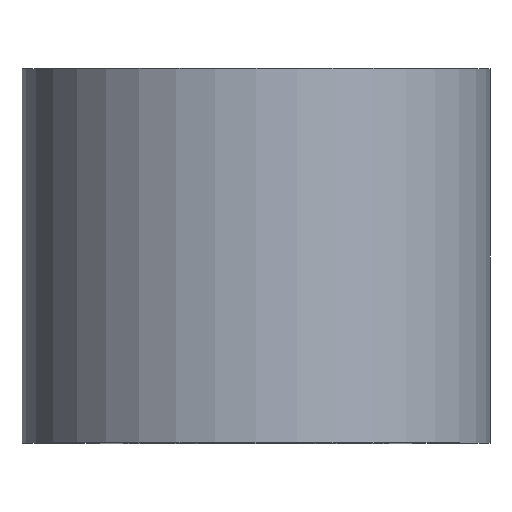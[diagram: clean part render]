
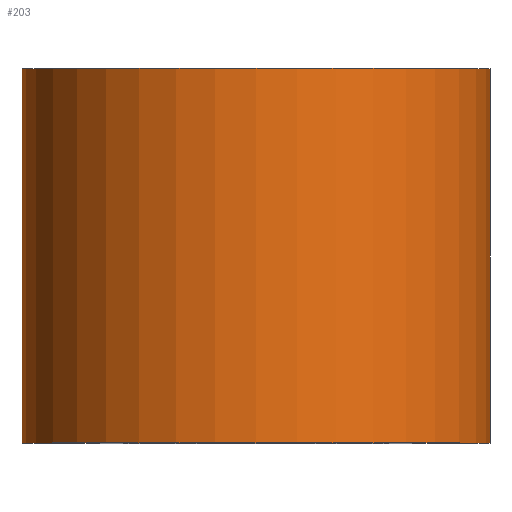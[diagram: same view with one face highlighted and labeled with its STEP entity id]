
A CAD part, top view. The second image highlights one B-rep face of the part: STEP entity #203.
In plain terms, the highlighted cylindrical face has radius 7.5 mm (diameter 15 mm), a partial arc.
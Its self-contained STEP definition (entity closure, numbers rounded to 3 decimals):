
#5 = EDGE_CURVE ( 'NONE', #183, #237, #205, .T. ) ;
#6 = DIRECTION ( 'NONE',  ( 0., 1., 0. ) ) ;
#34 = CARTESIAN_POINT ( 'NONE',  ( 7.5, 0., 0. ) ) ;
#40 = ORIENTED_EDGE ( 'NONE', *, *, #57, .F. ) ;
#42 = CARTESIAN_POINT ( 'NONE',  ( -7.5, 0., 0. ) ) ;
#46 = CIRCLE ( 'NONE', #219, 7.5 ) ;
#56 = CARTESIAN_POINT ( 'NONE',  ( 7.5, 12., 0. ) ) ;
#57 = EDGE_CURVE ( 'NONE', #183, #231, #192, .T. ) ;
#60 = VECTOR ( 'NONE', #221, 1000. ) ;
#71 = EDGE_CURVE ( 'NONE', #237, #273, #258, .T. ) ;
#76 = CYLINDRICAL_SURFACE ( 'NONE', #257, 7.5 ) ;
#94 = CARTESIAN_POINT ( 'NONE',  ( -7.5, 0., 0. ) ) ;
#113 = VECTOR ( 'NONE', #269, 1000. ) ;
#114 = DIRECTION ( 'NONE',  ( -1., 0., 0. ) ) ;
#117 = ORIENTED_EDGE ( 'NONE', *, *, #5, .T. ) ;
#132 = FACE_OUTER_BOUND ( 'NONE', #255, .T. ) ;
#133 = DIRECTION ( 'NONE',  ( -1., 0., 0. ) ) ;
#149 = AXIS2_PLACEMENT_3D ( 'NONE', #236, #6, #114 ) ;
#174 = DIRECTION ( 'NONE',  ( -1., 0., 0. ) ) ;
#183 = VERTEX_POINT ( 'NONE', #42 ) ;
#186 = DIRECTION ( 'NONE',  ( 0., 1., 0. ) ) ;
#192 = LINE ( 'NONE', #94, #60 ) ;
#203 = ADVANCED_FACE ( 'NONE', ( #132 ), #76, .T. ) ;
#205 = CIRCLE ( 'NONE', #149, 7.5 ) ;
#210 = CARTESIAN_POINT ( 'NONE',  ( -7.5, 12., 0. ) ) ;
#212 = ORIENTED_EDGE ( 'NONE', *, *, #71, .T. ) ;
#219 = AXIS2_PLACEMENT_3D ( 'NONE', #294, #297, #174 ) ;
#221 = DIRECTION ( 'NONE',  ( 0., 1., 0. ) ) ;
#231 = VERTEX_POINT ( 'NONE', #210 ) ;
#236 = CARTESIAN_POINT ( 'NONE',  ( 0., 0., 0. ) ) ;
#237 = VERTEX_POINT ( 'NONE', #34 ) ;
#239 = CARTESIAN_POINT ( 'NONE',  ( 0., 0., 0. ) ) ;
#247 = ORIENTED_EDGE ( 'NONE', *, *, #293, .F. ) ;
#255 = EDGE_LOOP ( 'NONE', ( #117, #212, #247, #40 ) ) ;
#257 = AXIS2_PLACEMENT_3D ( 'NONE', #239, #186, #133 ) ;
#258 = LINE ( 'NONE', #290, #113 ) ;
#269 = DIRECTION ( 'NONE',  ( 0., 1., 0. ) ) ;
#273 = VERTEX_POINT ( 'NONE', #56 ) ;
#290 = CARTESIAN_POINT ( 'NONE',  ( 7.5, 0., 0. ) ) ;
#293 = EDGE_CURVE ( 'NONE', #231, #273, #46, .T. ) ;
#294 = CARTESIAN_POINT ( 'NONE',  ( 0., 12., 0. ) ) ;
#297 = DIRECTION ( 'NONE',  ( 0., 1., 0. ) ) ;
